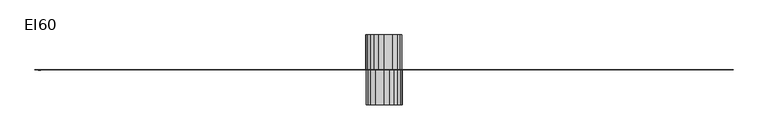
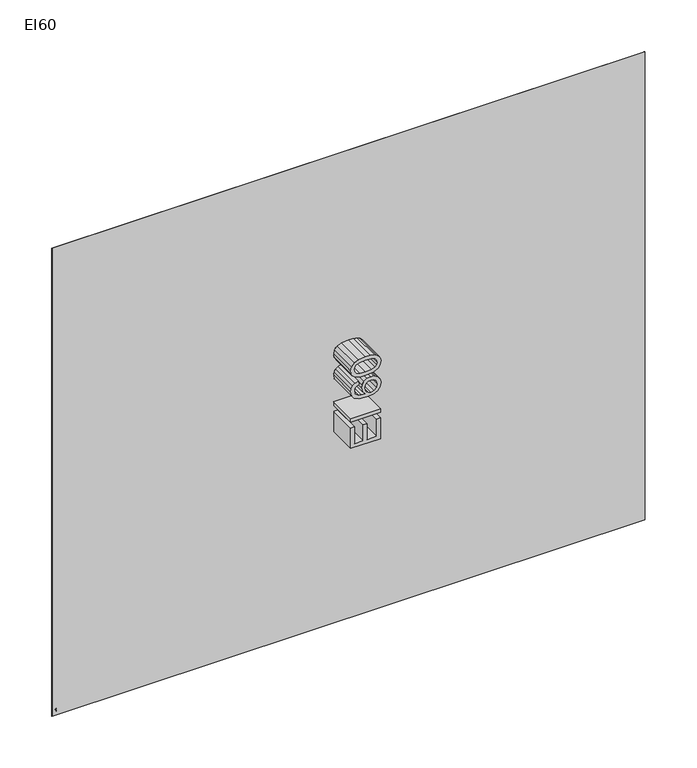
"""IFC4 building model written with IfcOpenShell, lengths in millimetres: proxy geometry, Fire_FireCompartmentationEI : EI60."""

from ifc_helpers import new_model, si_unit, point, frame, frame_2d, origin, origin_with_axes, place, context, project, spatial, polyline, circle_curve, trimmed, segment, composite_curve, outline, extrude, source, transform, mapped, element, save


def ei60_1caa0f9c(model_context):
    return source(origin(), model_context, "Body", "SweptSolid", [
        extrude(outline(polyline([(3000.0, -0.5), (0.0, -0.5), (0.0, 0.5), (3000.0, 0.5), (3000.0, -0.5)])), origin_with_axes(), (0.0, 0.0, 1.0), 2500.0),
        extrude(outline(composite_curve([segment(trimmed(circle_curve(frame_2d((28.9488523, 20.9372462)), 4.3000253), [point((27.7936078, 25.0791815))], [point((29.724042, 25.1668205))], False, "CARTESIAN"), True, "CONTINUOUS"), segment(trimmed(circle_curve(frame_2d((29.6833004, 19.2917407)), 5.875221), [point((29.724042, 25.1668205))], [point((32.6283278, 24.3755421))], False, "CARTESIAN"), True, "CONTINUOUS"), segment(trimmed(circle_curve(frame_2d((32.8576867, 20.8662932)), 3.5167361), [point((32.6283278, 24.3755421))], [point((30.6249304, 23.5833197))], True, "CARTESIAN"), True, "CONTINUOUS"), segment(trimmed(circle_curve(frame_2d((10.876956, 53.8348059)), 36.1266511), [point((30.6249304, 23.5833197))], [point((25.8949704, 20.9776277))], False, "CARTESIAN"), True, "CONTINUOUS"), segment(trimmed(circle_curve(frame_2d((21.9041848, 33.757735)), 13.3887083), [point((25.8949704, 20.9776277))], [point((22.6832699, 20.3917132))], False, "CARTESIAN"), True, "CONTINUOUS"), segment(trimmed(circle_curve(frame_2d((20.9508608, 39.8789486)), 19.5640891), [point((22.6832699, 20.3917132))], [point((20.0109811, 20.3374489))], False, "CARTESIAN"), True, "CONTINUOUS"), segment(trimmed(circle_curve(frame_2d((18.2722891, 30.1747881)), 9.9898094), [point((20.0109811, 20.3374489))], [point((25.2489423, 23.0247809))], True, "CARTESIAN"), True, "CONTINUOUS"), segment(trimmed(circle_curve(frame_2d((30.9774835, 18.5323372)), 7.2799887), [point((25.2489423, 23.0247809))], [point((27.7936078, 25.0791815))], False, "CARTESIAN"), True, "CONTINUOUS")], self_intersect=False)), frame((0.0, -0.6, 0.0), z_axis=(0.0, 1.0, 0.0), x_axis=(0.0, 0.0, 1.0)), (0.0, 0.0, 1.0), 1.2),
        extrude(outline(composite_curve([segment(trimmed(circle_curve(frame_2d((34.8553456, 17.4656787)), 4.3823741), [point((35.4675373, 21.8050824))], [point((32.7666638, 21.3182897))], True, "CARTESIAN"), True, "CONTINUOUS"), segment(trimmed(circle_curve(frame_2d((31.0348418, 25.2412811)), 4.2882478), [point((32.7666638, 21.3182897))], [point((31.0556823, 20.9530839))], False, "CARTESIAN"), True, "CONTINUOUS"), segment(trimmed(circle_curve(frame_2d((30.8661112, 26.3534755)), 5.4037178), [point((31.0556823, 20.9530839))], [point((28.4262544, 21.5319337))], False, "CARTESIAN"), True, "CONTINUOUS"), segment(trimmed(circle_curve(frame_2d((28.9867579, 26.8058524)), 5.3036197), [point((28.4262544, 21.5319337))], [point((30.6443727, 21.7679267))], True, "CARTESIAN"), True, "CONTINUOUS"), segment(trimmed(circle_curve(frame_2d((33.7648144, 18.2895153)), 4.6729544), [point((30.6443727, 21.7679267))], [point((32.5632515, 22.8053485))], False, "CARTESIAN"), True, "CONTINUOUS"), segment(trimmed(circle_curve(frame_2d((33.1708117, 19.8529583)), 3.0142556), [point((32.5632515, 22.8053485))], [point((35.4675373, 21.8050824))], False, "CARTESIAN"), True, "CONTINUOUS")], self_intersect=False)), frame((0.0, -0.6, 0.0), z_axis=(0.0, 1.0, 0.0), x_axis=(0.0, 0.0, 1.0)), (0.0, 0.0, 1.0), 1.2),
        extrude(outline(composite_curve([segment(trimmed(circle_curve(frame_2d((26.35828, 17.8501973)), 2.1465167), [point((27.6612009, 19.5560492))], [point((26.6135063, 19.9814864))], True, "CARTESIAN"), True, "CONTINUOUS"), segment(trimmed(circle_curve(frame_2d((25.771558, 13.6747037)), 6.3627341), [point((26.6135063, 19.9814864))], [point((25.1811141, 20.0099828))], True, "CARTESIAN"), True, "CONTINUOUS"), segment(trimmed(circle_curve(frame_2d((27.6708438, 15.0485986)), 5.5510437), [point((25.1811141, 20.0099828))], [point((27.8117089, 20.5978547))], False, "CARTESIAN"), True, "CONTINUOUS"), segment(trimmed(circle_curve(frame_2d((27.9681735, 17.2267436)), 3.3747401), [point((27.8117089, 20.5978547))], [point((29.507487, 20.2299728))], False, "CARTESIAN"), True, "CONTINUOUS"), segment(trimmed(circle_curve(frame_2d((31.5381431, 23.6896238)), 4.0115769), [point((29.507487, 20.2299728))], [point((32.2223971, 19.7368341))], True, "CARTESIAN"), True, "CONTINUOUS"), segment(trimmed(circle_curve(frame_2d((29.9256715, 21.6889582)), 3.0142556), [point((32.2223971, 19.7368341))], [point((29.3181113, 18.736568))], False, "CARTESIAN"), True, "CONTINUOUS"), segment(trimmed(circle_curve(frame_2d((30.5170043, 23.2454076)), 4.6655095), [point((29.3181113, 18.736568))], [point((27.6612009, 19.5560492))], False, "CARTESIAN"), True, "CONTINUOUS")], self_intersect=False)), frame((0.0, -0.6, 0.0), z_axis=(0.0, 1.0, 0.0), x_axis=(0.0, 0.0, 1.0)), (0.0, 0.0, 1.0), 1.2),
        extrude(outline(composite_curve([segment(trimmed(circle_curve(frame_2d((32.8467056, 19.4711557)), 3.5167361), [point((30.6139493, 16.7541292))], [point((32.6173467, 15.9619068))], True, "CARTESIAN"), True, "CONTINUOUS"), segment(trimmed(circle_curve(frame_2d((29.6723193, 21.0457082)), 5.875221), [point((32.6173467, 15.9619068))], [point((29.7130609, 15.1706284))], False, "CARTESIAN"), True, "CONTINUOUS"), segment(trimmed(circle_curve(frame_2d((28.9378712, 19.4002026)), 4.3000253), [point((29.7130609, 15.1706284))], [point((27.7826267, 15.2582674))], False, "CARTESIAN"), True, "CONTINUOUS"), segment(trimmed(circle_curve(frame_2d((30.9665024, 21.8051117)), 7.2799887), [point((27.7826267, 15.2582674))], [point((25.2379612, 17.312668))], False, "CARTESIAN"), True, "CONTINUOUS"), segment(trimmed(circle_curve(frame_2d((18.261308, 10.1626608)), 9.9898094), [point((25.2379612, 17.312668))], [point((20.0, 20.0))], True, "CARTESIAN"), True, "CONTINUOUS"), segment(trimmed(circle_curve(frame_2d((20.9398797, 0.4585003)), 19.5640891), [point((20.0, 20.0))], [point((22.6722888, 19.9457357))], False, "CARTESIAN"), True, "CONTINUOUS"), segment(trimmed(circle_curve(frame_2d((21.8932037, 6.5797139)), 13.3887083), [point((22.6722888, 19.9457357))], [point((25.8839893, 19.3598212))], False, "CARTESIAN"), True, "CONTINUOUS"), segment(trimmed(circle_curve(frame_2d((10.8659749, -13.497357)), 36.1266511), [point((25.8839893, 19.3598212))], [point((30.6139493, 16.7541292))], False, "CARTESIAN"), True, "CONTINUOUS")], self_intersect=False)), frame((0.0, -0.6, 0.0), z_axis=(0.0, 1.0, 0.0), x_axis=(0.0, 0.0, 1.0)), (0.0, 0.0, 1.0), 1.2),
        extrude(outline(polyline([(1022.7960798, 1425.0), (1022.7960798, 1575.6844652), (1131.1005392, 1575.6844652), (1131.1005392, 1556.8489071), (1041.6316379, 1556.8489071), (1041.6316379, 1512.1144565), (1126.3916496, 1512.1144565), (1126.3916496, 1493.2788983), (1041.6316379, 1493.2788983), (1041.6316379, 1443.8355582), (1133.4549839, 1443.8355582), (1133.4549839, 1425.0), (1022.7960798, 1425.0)])), frame((0.0, 0.0, 0.0), z_axis=(0.0, 1.0, 0.0), x_axis=(0.0, 0.0, 1.0)), (0.0, 0.0, 1.0), 150.0),
        extrude(outline(polyline([(1425.0, 150.0), (1575.6844652, 150.0), (1575.6844652, 0.0), (1425.0, 0.0), (1425.0, 150.0)])), frame((0.0, 0.0, 1164.0627659), z_axis=(0.0, 0.0, 1.0), x_axis=(1.0, 0.0, 0.0)), (0.0, 0.0, 1.0), 18.8355582),
        extrude(outline(polyline([(1368.8994608, 1535.6589041), (1350.0639027, 1533.3044594), (1342.926992, 1549.0130206), (1334.3829326, 1554.8899354), (1324.0546456, 1556.8489071), (1307.0584975, 1552.2871703), (1294.2010217, 1535.1622635), (1290.296874, 1521.1321639), (1288.8483387, 1501.5930314), (1305.4582108, 1516.6210109), (1326.0412084, 1521.5322355), (1343.4420268, 1518.1753123), (1358.046942, 1508.1045427), (1367.9521647, 1492.7178783), (1371.2539056, 1473.4132706), (1369.6996042, 1459.9257969), (1365.0366999, 1447.4224076), (1357.6514688, 1436.8182091), (1347.9301871, 1429.0283078), (1336.3143131, 1424.2412434), (1323.2453052, 1422.6455552), (1301.8759598, 1426.8761982), (1284.856819, 1439.568127), (1273.7237902, 1461.9721405), (1270.0127805, 1495.3390375), (1274.1330589, 1532.8538039), (1286.4938939, 1558.504376), (1303.3704805, 1571.3894429), (1325.231868, 1575.6844652), (1341.7589666, 1573.0265178), (1354.9935214, 1565.0526756), (1364.2641477, 1552.3883379), (1368.8994608, 1535.6589041)]), holes=[polyline([(1288.8483387, 1473.7075762), (1293.2077403, 1457.3920097), (1304.7960232, 1445.5462094), (1321.7737773, 1441.4811134), (1334.2035902, 1443.5872378), (1343.9754557, 1449.9056111), (1350.3076245, 1459.8384249), (1352.4183475, 1472.7878712), (1350.3352157, 1485.2176841), (1344.0858203, 1494.695244), (1334.1484079, 1500.696319), (1321.0012251, 1502.6966774), (1308.5898063, 1500.696319), (1298.2109355, 1494.695244), (1291.1889879, 1485.4476103), (1288.8483387, 1473.7075762)])]), frame((0.0, 0.0, 0.0), z_axis=(0.0, 1.0, 0.0), x_axis=(0.0, 0.0, 1.0)), (0.0, 0.0, 1.0), 150.0),
        extrude(outline(polyline([(1387.735019, 1499.128222), (1389.119175, 1523.2474853), (1393.271643, 1542.4831152), (1400.1510363, 1557.1294171), (1409.7159682, 1567.4806967), (1422.0354165, 1573.6335231), (1437.1783591, 1575.6844652), (1459.1777025, 1570.8284229), (1474.3712289, 1556.830513), (1483.2003967, 1534.5368641), (1486.6216993, 1499.128222), (1485.2513389, 1475.1469145), (1481.1402576, 1455.9572699), (1474.302251, 1441.2971724), (1464.7511147, 1430.904506), (1452.4040752, 1424.7102929), (1437.1783591, 1422.6455552), (1417.607037, 1426.2324047), (1402.7446044, 1436.992953), (1391.4874153, 1462.4779783), (1387.735019, 1499.128222)]), holes=[polyline([(1406.5705771, 1499.1650102), (1408.7778691, 1469.536714), (1415.399745, 1452.3888145), (1425.2589825, 1444.2080387), (1437.1783591, 1441.4811134), (1449.0977358, 1444.2172357), (1458.9569733, 1452.4256027), (1465.5788492, 1469.5826993), (1467.7861411, 1499.1650102), (1465.6524256, 1528.1265203), (1459.2512789, 1545.407777), (1449.4104355, 1553.9886246), (1436.9576299, 1556.8489071), (1425.167012, 1554.3289154), (1415.6940506, 1546.7689404), (1408.8514455, 1528.4116288), (1406.5705771, 1499.1650102)])]), frame((0.0, 0.0, 0.0), z_axis=(0.0, 1.0, 0.0), x_axis=(0.0, 0.0, 1.0)), (0.0, 0.0, 1.0), 150.0),
        extrude(outline(polyline([(1022.7960798, 1575.0), (1133.4549839, 1575.0), (1133.4549839, 1556.1644418), (1041.6316379, 1556.1644418), (1041.6316379, 1506.7211017), (1126.3916496, 1506.7211017), (1126.3916496, 1487.8855435), (1041.6316379, 1487.8855435), (1041.6316379, 1443.1510929), (1131.1005392, 1443.1510929), (1131.1005392, 1424.3155348), (1022.7960798, 1424.3155348), (1022.7960798, 1575.0)])), frame((0.0, -150.0, 0.0), z_axis=(0.0, 1.0, 0.0), x_axis=(0.0, 0.0, 1.0)), (0.0, 0.0, 1.0), 150.0),
        extrude(outline(polyline([(1575.0, -150.0), (1424.3155348, -150.0), (1424.3155348, 0.0), (1575.0, 0.0), (1575.0, -150.0)])), frame((0.0, 0.0, 1164.0627659), z_axis=(0.0, 0.0, 1.0), x_axis=(1.0, 0.0, 0.0)), (0.0, 0.0, 1.0), 18.8355582),
        extrude(outline(polyline([(1368.8994608, 1464.3410959), (1364.2641477, 1447.6116621), (1354.9935214, 1434.9473244), (1341.7589666, 1426.9734822), (1325.231868, 1424.3155348), (1303.3704805, 1428.6105571), (1286.4938939, 1441.495624), (1274.1330589, 1467.1461961), (1270.0127805, 1504.6609625), (1273.7237902, 1538.0278595), (1284.856819, 1560.431873), (1301.8759598, 1573.1238018), (1323.2453052, 1577.3544448), (1336.3143131, 1575.7587566), (1347.9301871, 1570.9716922), (1357.6514688, 1563.1817909), (1365.0366999, 1552.5775924), (1369.6996042, 1540.0742031), (1371.2539056, 1526.5867294), (1367.9521647, 1507.2821217), (1358.046942, 1491.8954573), (1343.4420268, 1481.8246877), (1326.0412084, 1478.4677645), (1305.4582108, 1483.3789891), (1288.8483387, 1498.4069686), (1290.296874, 1478.8678361), (1294.2010217, 1464.8377365), (1307.0584975, 1447.7128297), (1324.0546456, 1443.1510929), (1334.3829326, 1445.1100646), (1342.926992, 1450.9869794), (1350.0639027, 1466.6955406), (1368.8994608, 1464.3410959)]), holes=[polyline([(1288.8483387, 1526.2924238), (1291.1889879, 1514.5523897), (1298.2109355, 1505.304756), (1308.5898063, 1499.303681), (1321.0012251, 1497.3033226), (1334.1484079, 1499.303681), (1344.0858203, 1505.304756), (1350.3352157, 1514.7823159), (1352.4183475, 1527.2121288), (1350.3076245, 1540.1615751), (1343.9754557, 1550.0943889), (1334.2035902, 1556.4127622), (1321.7737773, 1558.5188866), (1304.7960232, 1554.4537906), (1293.2077403, 1542.6079903), (1288.8483387, 1526.2924238)])]), frame((0.0, -150.0, 0.0), z_axis=(0.0, 1.0, 0.0), x_axis=(0.0, 0.0, 1.0)), (0.0, 0.0, 1.0), 150.0),
        extrude(outline(polyline([(1387.735019, 1500.871778), (1391.4874153, 1537.5220217), (1402.7446044, 1563.007047), (1417.607037, 1573.7675953), (1437.1783591, 1577.3544448), (1452.4040752, 1575.2897071), (1464.7511147, 1569.095494), (1474.302251, 1558.7028276), (1481.1402576, 1544.0427301), (1485.2513389, 1524.8530855), (1486.6216993, 1500.871778), (1483.2003967, 1465.4631359), (1474.3712289, 1443.169487), (1459.1777025, 1429.1715771), (1437.1783591, 1424.3155348), (1422.0354165, 1426.3664769), (1409.7159682, 1432.5193033), (1400.1510363, 1442.8705829), (1393.271643, 1457.5168848), (1389.119175, 1476.7525147), (1387.735019, 1500.871778)]), holes=[polyline([(1406.5705771, 1500.8349898), (1408.8514455, 1471.5883712), (1415.6940506, 1453.2310596), (1425.167012, 1445.6710846), (1436.9576299, 1443.1510929), (1449.4104355, 1446.0113754), (1459.2512789, 1454.592223), (1465.6524256, 1471.8734797), (1467.7861411, 1500.8349898), (1465.5788492, 1530.4173007), (1458.9569733, 1547.5743973), (1449.0977358, 1555.7827643), (1437.1783591, 1558.5188866), (1425.2589825, 1555.7919613), (1415.399745, 1547.6111855), (1408.7778691, 1530.463286), (1406.5705771, 1500.8349898)])]), frame((0.0, -150.0, 0.0), z_axis=(0.0, 1.0, 0.0), x_axis=(0.0, 0.0, 1.0)), (0.0, 0.0, 1.0), 150.0),
    ])


if __name__ == "__main__":
    model = new_model("IFC4")
    model_context = context("Model", 3, world=origin())
    ifc_project = project(units=[si_unit("LENGTHUNIT", "METRE", prefix="MILLI")], contexts=[model_context])
    site = spatial("IfcSite", under=ifc_project)
    building = spatial("IfcBuilding", under=site)
    placement = place(None, origin())
    ei60_shape = ei60_1caa0f9c(model_context)
    element("IfcBuildingElementProxy", 1, Name="Fire_FireCompartmentationEI : EI60", ObjectType="Fire_FireCompartmentationEI : EI60", at=placement, inside=building, context=model_context, shape_type="MappedRepresentation", body=[
        mapped(ei60_shape, transform((0.0, 0.0, 0.0), x_axis=(1.0, 0.0, 0.0), y_axis=(0.0, 1.0, 0.0), z_axis=(0.0, 0.0, 1.0))),
    ])
    save(model, "model.ifc")
